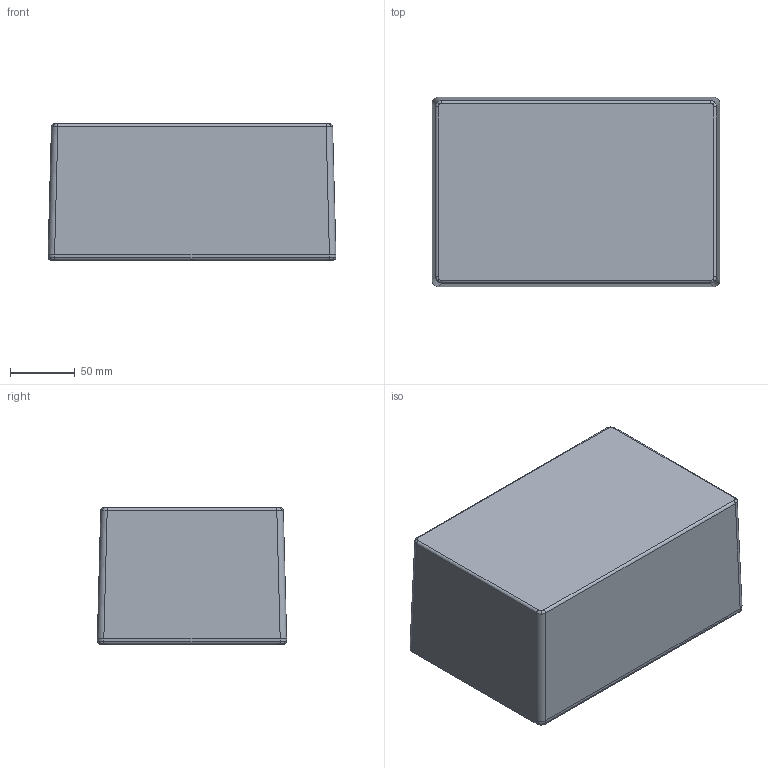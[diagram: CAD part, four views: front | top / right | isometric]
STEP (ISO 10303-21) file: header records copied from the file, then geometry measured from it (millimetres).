
FILE_DESCRIPTION(/* description */ (''),/* implementation_level */ '2;1');
FILE_NAME(/* name */ 'E:\Eng\Customer Service\Drawings\new 1550\STEP\1550H\1550H.iam.stp',/* time_stamp */ '2014-10-29T10:13:59-04:00',/* author */ ('tcook'),/* organization */ (''),/* preprocessor_version */ 'ST-DEVELOPER v15.2',/* originating_system */ 'Autodesk Inventor 2014',/* authorisation */ '');
FILE_SCHEMA (('AUTOMOTIVE_DESIGN { 1 0 10303 214 3 1 1 }'));
Products named in the file (4): 1550H BOX; 1550G-H LID; SC1550 (screw M3.5-0.6X 12mm FH); 1550H
Bounding box: 222 x 146 x 105.1 mm (x, y, z)
Volume: 297451.8 mm3; surface area: 276031.5 mm2
Topology: 8 solids, 8 shells, 1043 faces, 2780 edges, 1802 vertices
Faces by surface type: plane 407, bspline 380, cone 100, cylinder 94, torus 62
Full cylindrical faces by diameter (mm): 3 x6, 3.43 x6, 4.1 x6
Entity records: 44868 total; most frequent: CARTESIAN_POINT 24569, ORIENTED_EDGE 4766, DIRECTION 3168, EDGE_CURVE 2383, VERTEX_POINT 1565, LINE 1142, VECTOR 1142, EDGE_LOOP 1024
